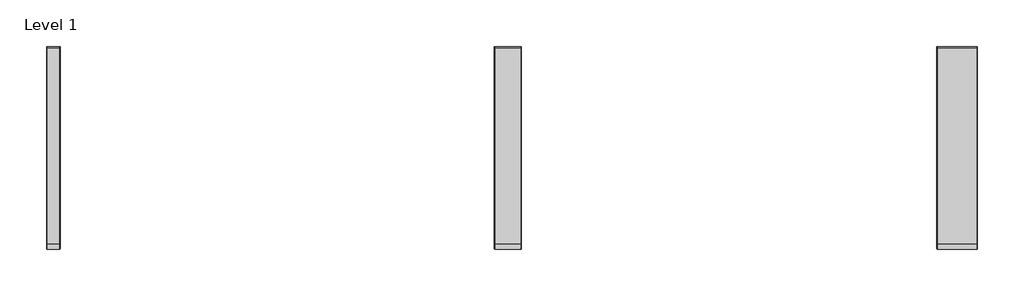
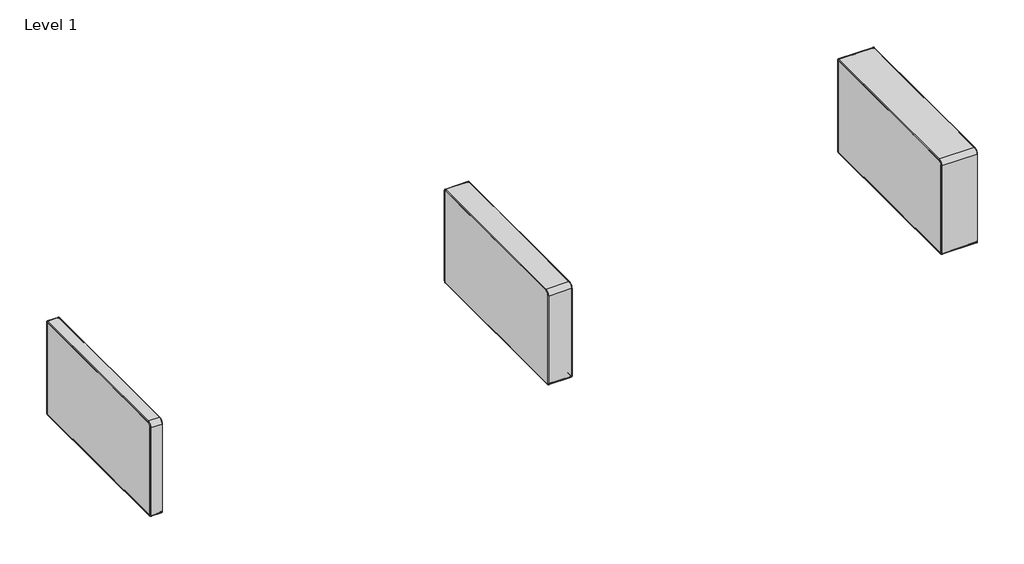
# One storey, incomplete: 3 furniture elements.
"""IFC4 building model written with IfcOpenShell, lengths in millimetres."""

from ifc_helpers import new_model, si_unit, origin, place, context, project, spatial, transform, mapped, element, save
from components import furniture_706b9282, furniture_c38c4944, furniture_aac89ebb

model = new_model("IFC4")

# Units and contexts
model_context = context("Model", 3, world=origin())
ifc_project = project(units=[si_unit("LENGTHUNIT", "METRE", prefix="MILLI")], contexts=[model_context])

# Site, building, storey
site = spatial("IfcSite", under=ifc_project)
building = spatial("IfcBuilding", under=site)
storey = spatial("IfcBuildingStorey", under=building, Name="Level 1", Elevation=0.0)

# Furniture
placement = place(None, origin())
furniture_shape = furniture_706b9282(model_context)
element("IfcFurniture", 1, ObjectType="Stylex - Free Address - Arm : 2\"", at=placement, inside=storey, context=model_context, shape_type="MappedRepresentation", body=[
    mapped(furniture_shape, transform((2286.8712902, -7581.5677978, 0.0), x_axis=(1.0, 0.0, 0.0), y_axis=(0.0, 1.0, 0.0), z_axis=(0.0, 0.0, 1.0))),
])
furniture_2_shape = furniture_c38c4944(model_context)
element("IfcFurniture", 2, ObjectType="Stylex - Free Address - Arm : 4\"", at=placement, inside=storey, context=model_context, shape_type="MappedRepresentation", body=[
    mapped(furniture_2_shape, transform((3997.0312139, -7581.5677978, 0.0), x_axis=(1.0, 0.0, 0.0), y_axis=(0.0, 1.0, 0.0), z_axis=(0.0, 0.0, 1.0))),
])
furniture_3_shape = furniture_aac89ebb(model_context)
element("IfcFurniture", 3, ObjectType="Stylex - Free Address - Arm : 6\"", at=placement, inside=storey, context=model_context, shape_type="MappedRepresentation", body=[
    mapped(furniture_3_shape, transform((5688.0662692, -7581.5677978, 0.0), x_axis=(1.0, 0.0, 0.0), y_axis=(0.0, 1.0, 0.0), z_axis=(0.0, 0.0, 1.0))),
])

save(model, "model.ifc")
